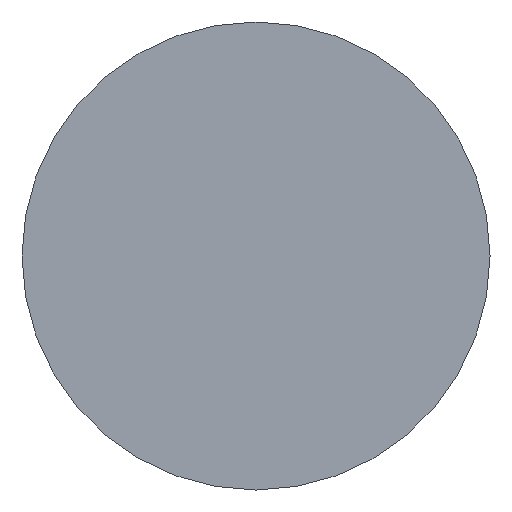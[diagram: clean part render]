
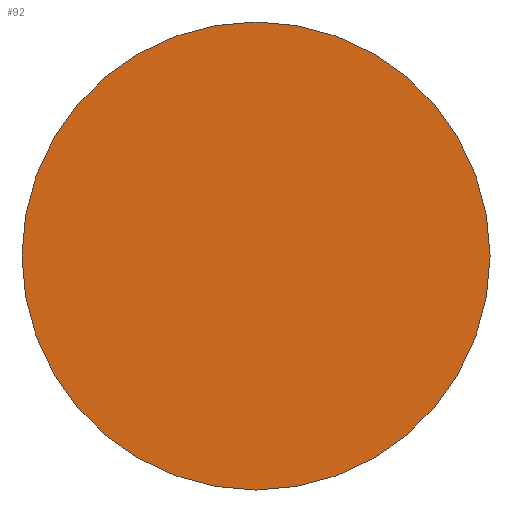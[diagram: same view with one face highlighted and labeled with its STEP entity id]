
A CAD part, front view. The second image highlights one B-rep face of the part: STEP entity #92.
In plain terms, the highlighted planar face has unit normal (0, -1, 0).
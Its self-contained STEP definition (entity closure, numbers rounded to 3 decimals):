
#39 = PLANE ( 'NONE',  #100 ) ;
#87 = CARTESIAN_POINT ( 'NONE',  ( 0., 0., 0. ) ) ;
#92 = ADVANCED_FACE ( 'NONE', ( #183 ), #39, .F. ) ;
#93 = AXIS2_PLACEMENT_3D ( 'NONE', #87, #264, #155 ) ;
#100 = AXIS2_PLACEMENT_3D ( 'NONE', #268, #206, #121 ) ;
#118 = EDGE_LOOP ( 'NONE', ( #209 ) ) ;
#121 = DIRECTION ( 'NONE',  ( 0., 0., 1. ) ) ;
#122 = EDGE_CURVE ( 'NONE', #246, #246, #237, .T. ) ;
#155 = DIRECTION ( 'NONE',  ( 0., 0., 1. ) ) ;
#158 = CARTESIAN_POINT ( 'NONE',  ( 0., 0., 18.75 ) ) ;
#183 = FACE_OUTER_BOUND ( 'NONE', #118, .T. ) ;
#206 = DIRECTION ( 'NONE',  ( 0., 1., 0. ) ) ;
#209 = ORIENTED_EDGE ( 'NONE', *, *, #122, .F. ) ;
#237 = CIRCLE ( 'NONE', #93, 18.75 ) ;
#246 = VERTEX_POINT ( 'NONE', #158 ) ;
#264 = DIRECTION ( 'NONE',  ( 0., 1., 0. ) ) ;
#268 = CARTESIAN_POINT ( 'NONE',  ( 0., 0., 0. ) ) ;
